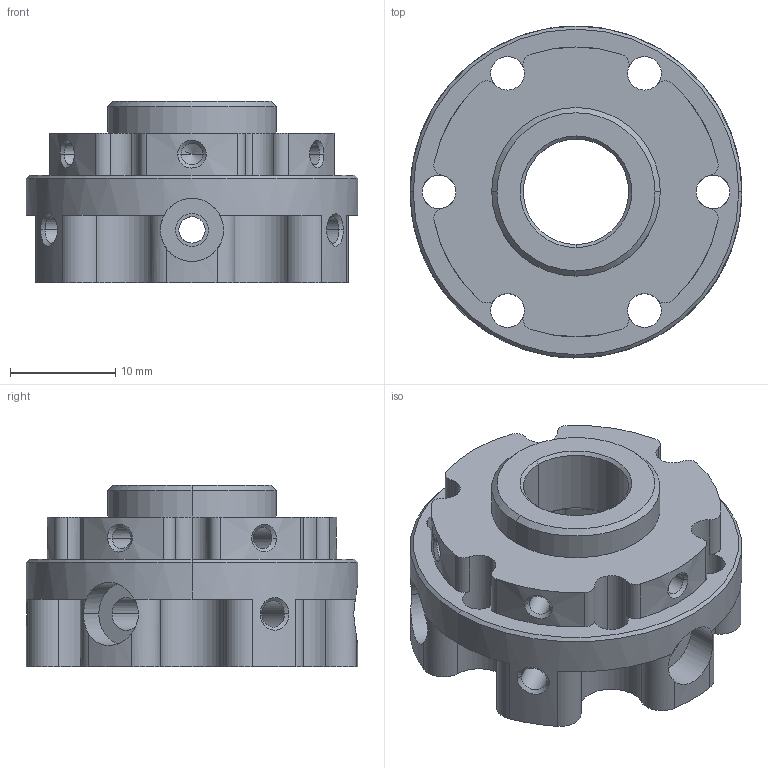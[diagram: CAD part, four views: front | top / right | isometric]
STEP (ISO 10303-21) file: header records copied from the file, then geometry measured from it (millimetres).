
FILE_DESCRIPTION((''),'2;1');
FILE_NAME('JXB-NE30C-RED-XIN','2019-12-02T',('Win10'),(''),'PRO/ENGINEER BY PARAMETRIC TECHNOLOGY CORPORATION, 2010280','PRO/ENGINEER BY PARAMETRIC TECHNOLOGY CORPORATION, 2010280','');
FILE_SCHEMA(('AUTOMOTIVE_DESIGN_CC2 { 1 2 10303 214 -1 1 5 2 }'));
Length unit declared in the file: millimetre
Products named in the file (1): JXB-NE30C-RED-XIN
Bounding box: 31.5 x 31.5 x 17.2 mm (x, y, z)
Volume: 6345.5 mm3; surface area: 4529.9 mm2
Topology: 1 solids, 1 shells, 175 faces, 466 edges, 284 vertices
Faces by surface type: cylinder 93, cone 38, plane 26, bspline 18
Entity records: 8571 total; most frequent: CARTESIAN_POINT 2836, DIRECTION 920, ORIENTED_EDGE 908, PRESENTATION_STYLE_ASSIGNMENT 455, STYLED_ITEM 455, CURVE_STYLE 454, EDGE_CURVE 454, AXIS2_PLACEMENT_3D 363
